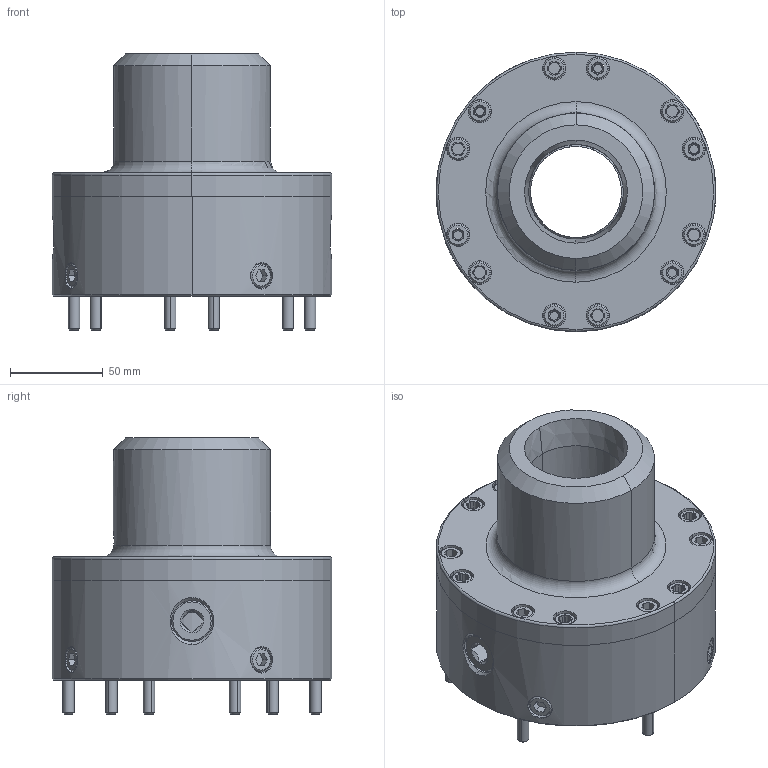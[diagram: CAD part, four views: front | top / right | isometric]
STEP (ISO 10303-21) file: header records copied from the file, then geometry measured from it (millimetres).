
FILE_DESCRIPTION (( 'STEP AP214' ), '1' );
FILE_NAME ('72160.STEP', '2012-10-31T18:25:49', ( '' ), ( '' ), 'SwSTEP 2.0', 'SolidWorks 2012', '' );
FILE_SCHEMA (( 'AUTOMOTIVE_DESIGN' ));
Length unit declared in the file: inch
Products named in the file (1): 72160
Bounding box: 151.13 x 151.13 x 149.22 mm (x, y, z)
Surface area: 151498.1 mm2 (no closed solid volume)
Topology: 0 solids, 32 shells, 447 faces, 1541 edges, 1134 vertices
Faces by surface type: cylinder 176, plane 173, cone 84, torus 14
Entity records: 23948 total; most frequent: CARTESIAN_POINT 4575, DIRECTION 2987, ORIENTED_EDGE 2384, EDGE_CURVE 1541, VERTEX_POINT 1134, AXIS2_PLACEMENT_3D 1044, LINE 899, VECTOR 899
